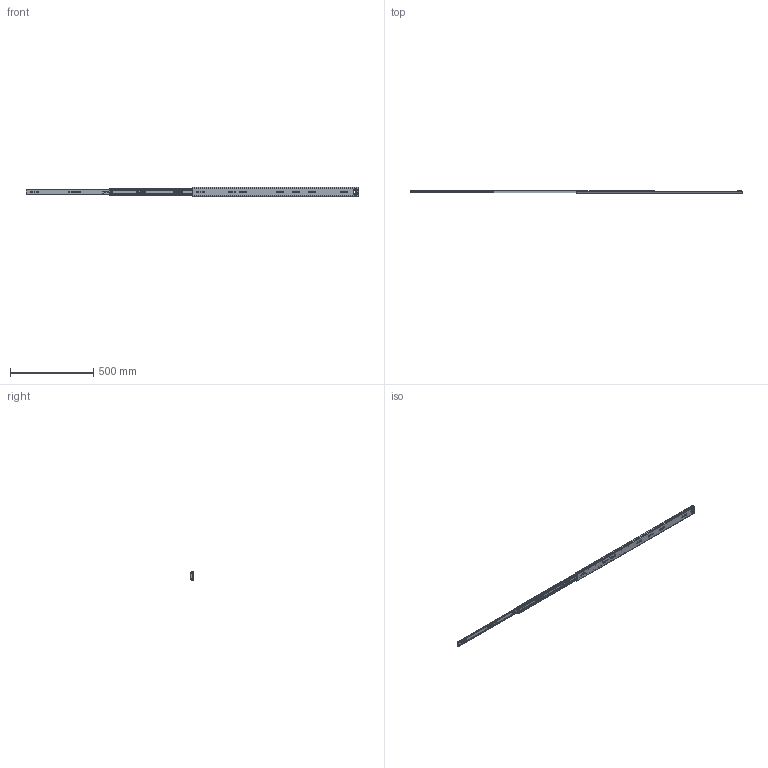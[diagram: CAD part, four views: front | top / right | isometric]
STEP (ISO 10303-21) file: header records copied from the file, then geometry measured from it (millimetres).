
FILE_DESCRIPTION((''),'2;1');
FILE_NAME('1057-02-40_ASM','2023-12-23T',('jishu015'),(''),'PRO/ENGINEER BY PARAMETRIC TECHNOLOGY CORPORATION, 2010280','PRO/ENGINEER BY PARAMETRIC TECHNOLOGY CORPORATION, 2010280','');
FILE_SCHEMA(('CONFIG_CONTROL_DESIGN'));
Products named in the file (14): KP-57-01WEIKE-18____________; 1057WEIJIAO____________; 1057DAZHUJIA-14GE____________; 1057-5-6GANZHU____________; 1057DAZHUJIA-14GE_____________ASM; KP-57-01ZHONGGUI-18____________; 57-ZHONGGUIDINWEIJIAN11_; KP-57-01ZHONGGUI-18_____________ASM; 1057XIAOZHUJIA____________; 1057XIAOZHUJIA-14GE_____________ASM; KP-57-01NEIGUI-18____________; 45TIEBACHA____________; KP-57-01NEIGUI-18_____________ASM; 1057-02-40_ASM
Assembly tree (160 placements, depth 3):
  1057-02-40_ASM
    KP-57-01WEIKE-18____________
    1057WEIJIAO____________
    1057DAZHUJIA-14GE_____________ASM
      1057DAZHUJIA-14GE____________
      1057-5-6GANZHU____________  x72
    KP-57-01ZHONGGUI-18_____________ASM
      KP-57-01ZHONGGUI-18____________
      57-ZHONGGUIDINWEIJIAN11_
    1057XIAOZHUJIA-14GE_____________ASM
      1057XIAOZHUJIA____________
      1057-5-6GANZHU____________  x76
    KP-57-01NEIGUI-18_____________ASM
      KP-57-01NEIGUI-18____________
      45TIEBACHA____________
Bounding box: 2000 x 19 x 57.67 mm (x, y, z)
Volume: 436504.5 mm3; surface area: 512618.9 mm2
Topology: 156 solids, 158 shells, 3983 faces, 11198 edges, 6928 vertices
Faces by surface type: plane 1837, cylinder 1642, sphere 304, cone 114, bspline 80, torus 6
Entity records: 124477 total; most frequent: CARTESIAN_POINT 25293, DIRECTION 21072, ORIENTED_EDGE 20604, EDGE_CURVE 10304, AXIS2_PLACEMENT_3D 7227, VERTEX_POINT 6634, VECTOR 6618, LINE 6618
